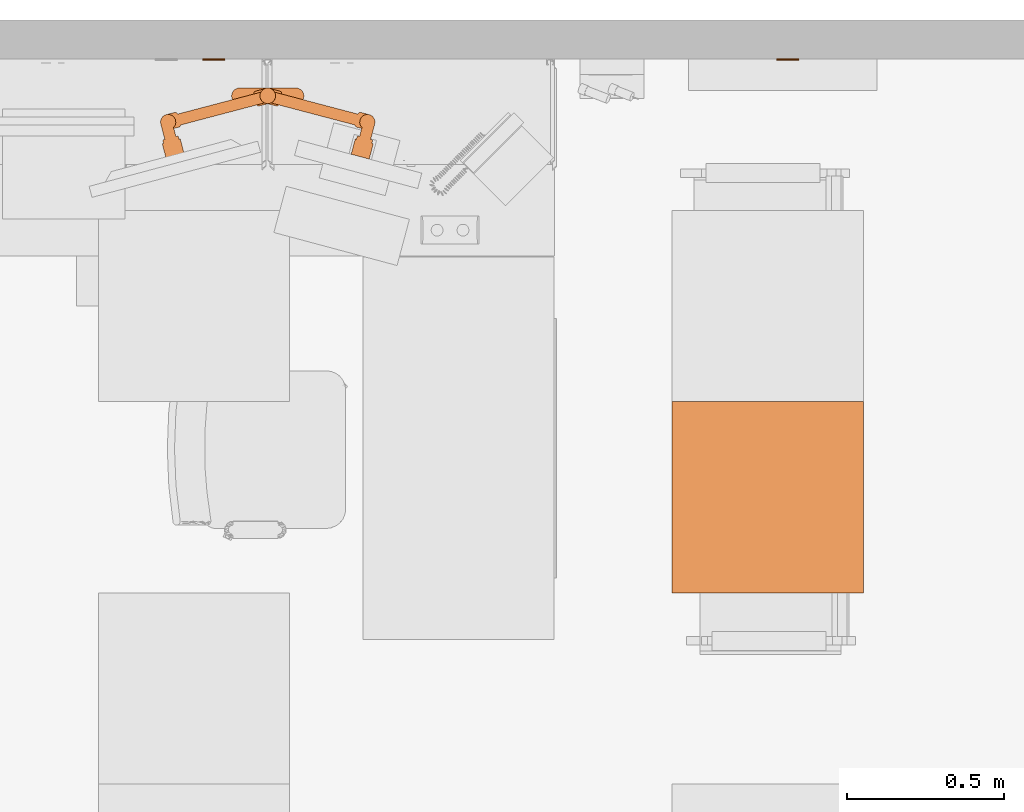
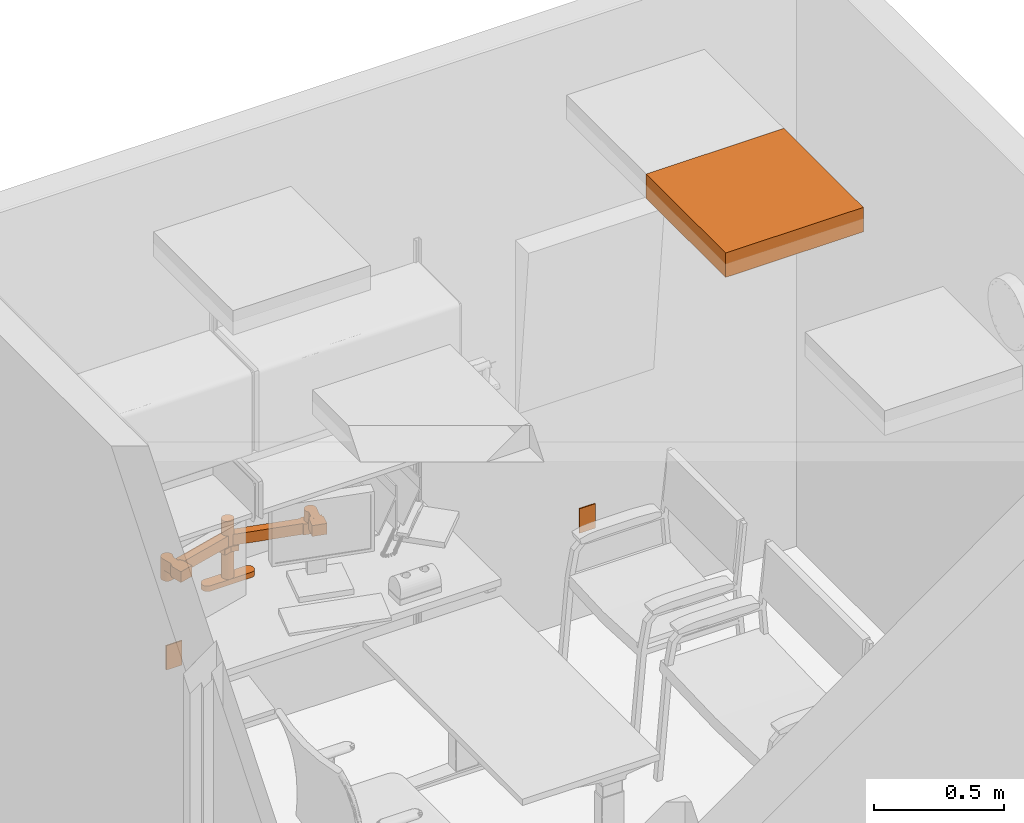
# One storey, part 6 of 9: 4 proxies.
"""IFC2X3 building model written with IfcOpenShell, lengths in feet."""

from ifc_helpers import new_model, entity, si_unit, converted_unit, derived_unit, direction, frame, frame_2d, origin, origin_2d_with_axis, place, context, subcontext, project, spatial, polyline, circle_curve, parameter, trimmed, segment, composite_curve, rectangle, circle, outline, extrude, source, transform, mapped, type_object, type_shapes, element, save


model = new_model("IFC2X3")

# Units and contexts
model_context = context("Model", 3, precision=0.0001, world=origin(), true_north=direction((6.12303176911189e-17, 1.0)))
body_context = subcontext(model_context, "Body", "Model", "MODEL_VIEW")
ifc_project = project(units=[converted_unit("LENGTHUNIT", "FOOT", entity("IfcRatioMeasure", 0.3048), si_unit("LENGTHUNIT", "METRE"), dimensions=[1, 0, 0, 0, 0, 0, 0]), converted_unit("AREAUNIT", "SQUARE FOOT", entity("IfcRatioMeasure", 0.09290304), si_unit("AREAUNIT", "SQUARE_METRE"), dimensions=[2, 0, 0, 0, 0, 0, 0]), converted_unit("VOLUMEUNIT", "CUBIC FOOT", entity("IfcRatioMeasure", 0.028316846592), si_unit("VOLUMEUNIT", "CUBIC_METRE"), dimensions=[3, 0, 0, 0, 0, 0, 0]), converted_unit("PLANEANGLEUNIT", "DEGREE", entity("IfcRatioMeasure", 0.0174532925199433), si_unit("PLANEANGLEUNIT", "RADIAN"), dimensions=[0, 0, 0, 0, 0, 0, 0]), si_unit("MASSUNIT", "GRAM", prefix="KILO"), derived_unit("MASSDENSITYUNIT", [(si_unit("MASSUNIT", "GRAM", prefix="KILO"), 1), (si_unit("LENGTHUNIT", "METRE"), -3)]), si_unit("TIMEUNIT", "SECOND"), si_unit("FREQUENCYUNIT", "HERTZ"), si_unit("THERMODYNAMICTEMPERATUREUNIT", "DEGREE_CELSIUS"), derived_unit("THERMALTRANSMITTANCEUNIT", [(si_unit("MASSUNIT", "GRAM", prefix="KILO"), 1), (si_unit("THERMODYNAMICTEMPERATUREUNIT", "KELVIN"), -1), (si_unit("TIMEUNIT", "SECOND"), -3)]), derived_unit("VOLUMETRICFLOWRATEUNIT", [(si_unit("LENGTHUNIT", "METRE"), 3), (si_unit("TIMEUNIT", "SECOND"), -1)]), si_unit("ELECTRICCURRENTUNIT", "AMPERE"), si_unit("ELECTRICVOLTAGEUNIT", "VOLT"), si_unit("POWERUNIT", "WATT"), si_unit("FORCEUNIT", "NEWTON"), si_unit("ILLUMINANCEUNIT", "LUX"), si_unit("LUMINOUSFLUXUNIT", "LUMEN"), si_unit("LUMINOUSINTENSITYUNIT", "CANDELA"), derived_unit("USERDEFINED", [(si_unit("MASSUNIT", "GRAM", prefix="KILO"), -1), (si_unit("LENGTHUNIT", "METRE"), -2), (si_unit("TIMEUNIT", "SECOND"), 3), (si_unit("LUMINOUSFLUXUNIT", "LUMEN"), 1)]), derived_unit("LINEARVELOCITYUNIT", [(si_unit("LENGTHUNIT", "METRE"), 1), (si_unit("TIMEUNIT", "SECOND"), -1)]), si_unit("PRESSUREUNIT", "PASCAL"), derived_unit("USERDEFINED", [(si_unit("LENGTHUNIT", "METRE"), -2), (si_unit("MASSUNIT", "GRAM", prefix="KILO"), 1), (si_unit("TIMEUNIT", "SECOND"), -2)])], contexts=[model_context])

# Site, building, storey, space
site_placement = place(None, origin())
site = spatial("IfcSite", under=ifc_project, at=site_placement, Name="Default", CompositionType="ELEMENT")
building_placement = place(site_placement, origin())
building = spatial("IfcBuilding", under=site, at=building_placement, Name="AUDIOLOGY AND SPEECH PATHOLOGY (Ch. 204)", CompositionType="ELEMENT")
storey_placement = place(building_placement, frame((0.0, 0.0, 42.0)))
storey = spatial("IfcBuildingStorey", under=building, at=storey_placement, Name="AUD01 - Audiology Rehabilitation/Counseling", CompositionType="ELEMENT", Elevation=42.0)
space_placement = place(storey_placement, origin())
space = spatial("IfcSpace", under=storey, at=space_placement, Name="(AUD01)", CompositionType="ELEMENT", InteriorOrExteriorSpace="INTERNAL")

# Proxies
building_element_proxy_type_1 = type_object("IfcBuildingElementProxyType", Name="A5225 - Dual  Flat Panel Monitor ARMS", PredefinedType="NOTDEFINED")
shared_shape_1 = source(origin(), body_context, "Body", "SweptSolid", [
    extrude(outline(composite_curve([segment(trimmed(circle_curve(frame_2d((-0.790855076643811, -0.00490841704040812), x_axis=(0.254554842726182, -0.967058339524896)), 0.0820209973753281), [parameter(25.1937534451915)], [parameter(117.785704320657)], True, "PARAMETER"), False, "CONTINUOUS"), segment(polyline([(-0.738197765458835, -0.0677944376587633), (0.171197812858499, -0.0677944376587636)]), True, "CONTINUOUS"), segment(trimmed(circle_curve(frame_2d((0.188411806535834, -0.0675795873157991), x_axis=(0.254554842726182, -0.967058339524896)), 0.0172153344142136), [parameter(255.967870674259)], [parameter(345.252790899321)], True, "PARAMETER"), True, "CONTINUOUS"), segment(polyline([(0.188411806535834, -0.0847949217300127), (0.288518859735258, -0.0847949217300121)]), True, "CONTINUOUS"), segment(trimmed(circle_curve(frame_2d((0.286061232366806, -0.0049273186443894), x_axis=(0.254554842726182, -0.967058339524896)), 0.0799054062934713), [parameter(347.01529850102)], [parameter(165.252790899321)], True, "PARAMETER"), True, "CONTINUOUS"), segment(polyline([(0.286061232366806, 0.0749780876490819), (0.192029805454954, 0.0749780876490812)]), True, "CONTINUOUS"), segment(trimmed(circle_curve(frame_2d((0.192029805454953, 0.0541447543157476), x_axis=(0.254554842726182, -0.967058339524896)), 0.0208333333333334), [parameter(165.252790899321)], [parameter(255.252790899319)], True, "PARAMETER"), True, "CONTINUOUS"), segment(polyline([(0.17119647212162, 0.0541447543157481), (0.17119647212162, 0.0505388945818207)]), True, "CONTINUOUS"), segment(polyline([(0.17119647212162, 0.0505388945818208), (-0.730414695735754, 0.0505388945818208)]), True, "CONTINUOUS")], self_intersect=False)), frame((-0.766443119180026, 0.426874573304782, 0.588770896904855), z_axis=(0.0, 0.0, -1.0), x_axis=(-0.967058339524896, -0.25455484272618, 0.0)), (0.0, 0.0, -1.0), 0.166666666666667),
    extrude(outline(composite_curve([segment(trimmed(circle_curve(frame_2d((-0.0257333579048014, -0.00677368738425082), x_axis=(1.0, 0.0)), 0.0799054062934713), [parameter(194.747209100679)], [parameter(12.9847014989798)], True, "PARAMETER"), True, "CONTINUOUS"), segment(polyline([(0.0521288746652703, 0.0111803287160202), (0.0508776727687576, 0.015933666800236)]), True, "CONTINUOUS"), segment(trimmed(circle_curve(frame_2d((-0.0257333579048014, -0.00677368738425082), x_axis=(1.0, 0.0)), 0.0799054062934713), [parameter(16.5097167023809)], [parameter(194.747209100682)], True, "PARAMETER"), True, "CONTINUOUS")], self_intersect=False)), frame((-1.03505305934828, 0.323557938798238, 0.755437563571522), z_axis=(0.0, 0.0, 1.0), x_axis=(0.0, -1.0, 0.0)), (0.0, 0.0, 1.0), 0.166666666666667),
    extrude(outline(composite_curve([segment(trimmed(circle_curve(frame_2d((0.0724992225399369, 0.012189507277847), x_axis=(1.0, 0.0)), 0.059894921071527), [parameter(284.74720910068)], [parameter(104.747026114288)], True, "PARAMETER"), True, "CONTINUOUS"), segment(polyline([(0.0572528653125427, 0.0701114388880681), (-0.0376511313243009, 0.0451305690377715)]), True, "CONTINUOUS"), segment(trimmed(circle_curve(frame_2d((-0.0944490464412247, -0.0110732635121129), x_axis=(1.0, 0.0)), 0.0799054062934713), [parameter(16.5097167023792)], [parameter(44.6987824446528)], True, "PARAMETER"), False, "CONTINUOUS"), segment(polyline([(-0.0178380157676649, 0.0116340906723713), (-0.0165868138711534, 0.00688075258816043)]), True, "CONTINUOUS"), segment(trimmed(circle_curve(frame_2d((-0.0944490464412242, -0.0110732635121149), x_axis=(1.0, 0.0)), 0.0799054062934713), [parameter(285.628462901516)], [parameter(12.984701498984)], True, "PARAMETER"), False, "CONTINUOUS"), segment(polyline([(-0.0729226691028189, -0.0880244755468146), (0.087745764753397, -0.045732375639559)]), True, "CONTINUOUS")], self_intersect=False)), frame((-1.03075348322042, 0.254842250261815, 0.755437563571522), z_axis=(0.0, 0.0, 1.0), x_axis=(0.0, -1.0, 0.0)), (0.0, 0.0, 1.0), 0.166666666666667),
    extrude(outline(composite_curve([segment(polyline([(0.0602572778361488, -0.0554648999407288), (0.0827848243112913, -0.0554648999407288)]), True, "CONTINUOUS"), segment(polyline([(0.0827848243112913, -0.0554648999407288), (0.0827848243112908, -0.0179714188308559)]), True, "CONTINUOUS"), segment(polyline([(0.0827848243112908, -0.0179714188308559), (0.0978778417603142, -0.0179714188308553)]), True, "CONTINUOUS"), segment(polyline([(0.0978778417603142, -0.0179714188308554), (0.0978778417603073, 0.147303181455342)]), True, "CONTINUOUS"), segment(polyline([(0.0978778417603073, 0.147303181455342), (-0.0971477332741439, 0.146442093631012)]), True, "CONTINUOUS"), segment(polyline([(-0.0971477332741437, 0.146442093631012), (-0.0971477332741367, -0.0179714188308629)]), True, "CONTINUOUS"), segment(polyline([(-0.0971477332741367, -0.0179714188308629), (-0.0838818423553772, -0.0179714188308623)]), True, "CONTINUOUS"), segment(polyline([(-0.0838818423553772, -0.0179714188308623), (-0.0838818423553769, -0.0554648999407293)]), True, "CONTINUOUS"), segment(polyline([(-0.0838818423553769, -0.0554648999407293), (-0.0595234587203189, -0.0554648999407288)]), True, "CONTINUOUS"), segment(trimmed(circle_curve(frame_2d((0.000366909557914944, -0.0547264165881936), x_axis=(0.2545517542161, 0.967059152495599)), 0.059894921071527), [parameter(284.040571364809)], [parameter(105.453480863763)], True, "PARAMETER"), False, "CONTINUOUS")], self_intersect=False)), frame((-1.00427844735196, 0.129512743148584, 0.755437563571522), z_axis=(0.0, 0.0, 1.0), x_axis=(-0.9670591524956, -0.254551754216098, 0.0)), (0.0, 0.0, 1.0), 0.166666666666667),
    extrude(outline(composite_curve([segment(polyline([(-0.0382992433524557, -0.0723910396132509), (-0.0325648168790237, -0.0941765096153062)]), True, "CONTINUOUS"), segment(polyline([(-0.0325648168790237, -0.0941765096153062), (0.00369359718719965, -0.0846324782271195)]), True, "CONTINUOUS"), segment(polyline([(0.00369359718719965, -0.0846324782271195), (0.0075355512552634, -0.0992283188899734)]), True, "CONTINUOUS"), segment(polyline([(0.0075355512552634, -0.0992283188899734), (0.16736586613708, -0.0571573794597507)]), True, "CONTINUOUS"), segment(polyline([(0.16736586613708, -0.0571573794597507), (0.116889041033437, 0.131224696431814)]), True, "CONTINUOUS"), segment(polyline([(0.116889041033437, 0.131224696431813), (-0.0421085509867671, 0.0893729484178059)]), True, "CONTINUOUS"), segment(polyline([(-0.0421085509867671, 0.0893729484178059), (-0.0387316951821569, 0.0765440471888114)]), True, "CONTINUOUS"), segment(polyline([(-0.0387316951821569, 0.0765440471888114), (-0.0749901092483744, 0.0670000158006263)]), True, "CONTINUOUS"), segment(polyline([(-0.0749901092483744, 0.0670000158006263), (-0.0687896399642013, 0.0434440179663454)]), True, "CONTINUOUS"), segment(trimmed(circle_curve(frame_2d((-0.0528302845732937, -0.0142855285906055), x_axis=(1.0, 0.0)), 0.059894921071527), [parameter(284.040571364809)], [parameter(105.453480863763)], True, "PARAMETER"), False, "CONTINUOUS")], self_intersect=False)), frame((1.0034971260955, 0.129512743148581, 0.755437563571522), z_axis=(0.0, 0.0, -1.0), x_axis=(0.0, -1.0, 0.0)), (0.0, 0.0, -1.0), 0.166666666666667),
    extrude(outline(composite_curve([segment(polyline([(-0.0732138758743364, -0.0665619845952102), (0.0929275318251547, -0.0665619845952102)]), True, "CONTINUOUS"), segment(trimmed(circle_curve(frame_2d((0.0941564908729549, 0.0133339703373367), x_axis=(-0.967058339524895, -0.254554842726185)), 0.0799054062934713), [parameter(347.015298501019)], [parameter(74.3715370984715)], True, "PARAMETER"), False, "CONTINUOUS"), segment(polyline([(0.0142888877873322, 0.0108763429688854), (0.0142888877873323, 0.0157915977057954)]), True, "CONTINUOUS"), segment(trimmed(circle_curve(frame_2d((0.0941564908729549, 0.013333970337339), x_axis=(-0.967058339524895, -0.254554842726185)), 0.0799054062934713), [parameter(315.301217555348)], [parameter(343.490283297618)], True, "PARAMETER"), False, "CONTINUOUS"), segment(polyline([(0.0249226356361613, 0.0532281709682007), (-0.0732140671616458, 0.0532278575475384)]), True, "CONTINUOUS"), segment(trimmed(circle_curve(frame_2d((-0.0732138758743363, -0.00666706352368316), x_axis=(-0.967058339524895, -0.254554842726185)), 0.059894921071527), [parameter(255.252973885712)], [parameter(75.2527908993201)], True, "PARAMETER"), True, "CONTINUOUS")], self_intersect=False)), frame((1.02997216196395, 0.254842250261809, 0.755437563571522), z_axis=(0.0, 0.0, 1.0), x_axis=(0.254554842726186, 0.967058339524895, 0.0)), (0.0, 0.0, 1.0), 0.166666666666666),
    extrude(outline(composite_curve([segment(trimmed(circle_curve(frame_2d((-0.0257333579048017, 0.00677368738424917), x_axis=(1.0, 0.0)), 0.0799054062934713), [parameter(165.252790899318)], [parameter(343.490283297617)], True, "PARAMETER"), True, "CONTINUOUS"), segment(polyline([(0.0508776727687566, -0.01593366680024), (0.0521288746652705, -0.0111803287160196)]), True, "CONTINUOUS"), segment(trimmed(circle_curve(frame_2d((-0.0257333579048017, 0.00677368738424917), x_axis=(1.0, 0.0)), 0.0799054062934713), [parameter(347.015298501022)], [parameter(165.25279089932)], True, "PARAMETER"), True, "CONTINUOUS")], self_intersect=False)), frame((1.03427173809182, 0.323557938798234, 0.755437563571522), z_axis=(0.0, 0.0, 1.0), x_axis=(0.0, -1.0, 0.0)), (0.0, 0.0, 1.0), 0.166666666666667),
    extrude(circle(Radius=0.0820209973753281, at=frame_2d((-2.3534863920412e-31, 1.32489505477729e-16), x_axis=(1.0, 0.0))), frame((-0.000390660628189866, 0.624030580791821, 0.588770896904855), z_axis=(0.0, 0.0, 1.0), x_axis=(0.0, -1.0, 0.0)), (0.0, 0.0, 1.0), 0.385601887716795),
    extrude(outline(composite_curve([segment(polyline([(-0.234804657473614, 0.693488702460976), (-0.00529516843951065, -0.178421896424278)]), True, "CONTINUOUS"), segment(polyline([(-0.00529516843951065, -0.178421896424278), (-0.00878224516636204, -0.179339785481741)]), True, "CONTINUOUS"), segment(trimmed(circle_curve(frame_2d((-0.00347901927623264, -0.199486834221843), x_axis=(1.0, 0.0)), 0.0208333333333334), [parameter(104.747209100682)], [parameter(194.747209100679)], True, "PARAMETER"), True, "CONTINUOUS"), segment(polyline([(-0.0236260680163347, -0.204790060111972), (0.000310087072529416, -0.295723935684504)]), True, "CONTINUOUS"), segment(trimmed(circle_curve(frame_2d((0.0775832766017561, -0.275383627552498), x_axis=(1.0, 0.0)), 0.0799054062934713), [parameter(194.747209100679)], [parameter(12.9847014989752)], True, "PARAMETER"), True, "CONTINUOUS"), segment(polyline([(0.155445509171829, -0.257429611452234), (0.129962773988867, -0.160620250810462)]), True, "CONTINUOUS"), segment(trimmed(circle_curve(frame_2d((0.113314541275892, -0.16500249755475), x_axis=(1.0, 0.0)), 0.0172153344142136), [parameter(14.7472091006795)], [parameter(104.032129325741)], True, "PARAMETER"), True, "CONTINUOUS"), segment(polyline([(0.109140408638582, -0.148300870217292), (-0.122350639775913, 0.731137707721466)]), True, "CONTINUOUS"), segment(trimmed(circle_curve(frame_2d((-0.196569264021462, 0.76605245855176), x_axis=(1.0, 0.0)), 0.0820209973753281), [parameter(242.214295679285)], [parameter(334.806246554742)], True, "PARAMETER"), False, "CONTINUOUS")], self_intersect=False)), frame((0.765661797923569, 0.426874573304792, 0.588770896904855), z_axis=(0.0, 0.0, -1.0), x_axis=(0.0, -1.0, 0.0)), (0.0, 0.0, -1.0), 0.166666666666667),
    extrude(outline(composite_curve([segment(polyline([(-0.0275603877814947, -0.104702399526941), (0.104720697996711, -0.104702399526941)]), True, "CONTINUOUS"), segment(trimmed(circle_curve(frame_2d((0.104720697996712, -0.0838690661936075), x_axis=(0.254554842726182, 0.967058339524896)), 0.0208333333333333), [parameter(194.747209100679)], [parameter(284.74720910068)], True, "PARAMETER"), True, "CONTINUOUS"), segment(polyline([(0.125554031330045, -0.0838690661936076), (0.125554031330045, 0.0378552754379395)]), True, "CONTINUOUS"), segment(trimmed(circle_curve(frame_2d((0.108338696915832, 0.0378552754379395), x_axis=(0.254554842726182, 0.967058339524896)), 0.0172153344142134), [parameter(284.747209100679)], [parameter(14.7472091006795)], True, "PARAMETER"), True, "CONTINUOUS"), segment(polyline([(0.108338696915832, 0.0550706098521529), (0.0144960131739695, 0.055070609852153)]), True, "CONTINUOUS"), segment(polyline([(0.0144960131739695, 0.055070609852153), (-0.0671850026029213, 0.101273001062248)]), True, "CONTINUOUS"), segment(trimmed(circle_curve(frame_2d((-0.0756607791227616, 0.0862887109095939), x_axis=(0.254554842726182, 0.967058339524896)), 0.0172153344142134), [parameter(345.25279089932)], [parameter(75.2527908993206)], True, "PARAMETER"), True, "CONTINUOUS"), segment(polyline([(-0.0906450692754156, 0.0947644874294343), (-0.150574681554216, -0.0111848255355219)]), True, "CONTINUOUS"), segment(trimmed(circle_curve(frame_2d((-0.132441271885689, -0.0214418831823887), x_axis=(0.254554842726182, 0.967058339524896)), 0.0208333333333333), [parameter(75.2527908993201)], [parameter(165.25279089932)], True, "PARAMETER"), True, "CONTINUOUS"), segment(polyline([(-0.142698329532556, -0.0395752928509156), (-0.0275603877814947, -0.104702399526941)]), True, "CONTINUOUS")], self_intersect=False)), frame((-0.000390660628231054, 0.597782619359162, 0.505437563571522), z_axis=(0.0, 0.0, 1.0), x_axis=(-0.967058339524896, -0.254554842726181, 0.0)), (0.0, 0.0, 1.0), 0.083333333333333),
    extrude(circle(Radius=0.0820209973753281, at=frame_2d((-2.3534863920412e-31, 1.32489505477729e-16), x_axis=(1.0, 0.0))), frame((-0.000390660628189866, 0.623443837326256, 0.0887708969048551), z_axis=(0.0, 0.0, 1.0), x_axis=(0.0, -1.0, 0.0)), (0.0, 0.0, 1.0), 0.416666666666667),
    extrude(outline(composite_curve([segment(trimmed(circle_curve(frame_2d((0.0, -0.295275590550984), x_axis=(1.0, 0.0)), 0.0820209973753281), [parameter(180.0)], [parameter(360.0)], True, "PARAMETER"), True, "CONTINUOUS"), segment(polyline([(0.0820209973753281, -0.295275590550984), (0.0820209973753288, 0.295275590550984)]), True, "CONTINUOUS"), segment(trimmed(circle_curve(frame_2d((0.0, 0.295275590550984), x_axis=(1.0, 0.0)), 0.0820209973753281), [parameter(0.0)], [parameter(180.0)], True, "PARAMETER"), True, "CONTINUOUS"), segment(polyline([(-0.0820209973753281, 0.295275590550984), (-0.0820209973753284, -0.295275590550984)]), True, "CONTINUOUS")], self_intersect=False)), frame((-0.000390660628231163, 0.623443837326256, 0.00543756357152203), z_axis=(0.0, 0.0, 1.0), x_axis=(0.0, -1.0, 0.0)), (0.0, 0.0, 1.0), 0.083333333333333),
])
type_shapes(building_element_proxy_type_1, [shared_shape_1])
proxy_1_placement = place(space_placement, frame((3.19844620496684, 10.7501404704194, 2.66122910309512)))
element("IfcBuildingElementProxy", 1, at=proxy_1_placement, inside=space, type_object=building_element_proxy_type_1, Name="A5225 - Bracket, Dual Computer Monitor, Desk-Mounted:A5225 - Dual  Flat Panel Monitor ARMS", ObjectType="A5225 - Dual  Flat Panel Monitor ARMS", context=body_context, shape_type="MappedRepresentation", body=[
    mapped(shared_shape_1, transform((0.0, 0.0, 0.0), scale=1.0)),
])
building_element_proxy_type_2 = type_object("IfcBuildingElementProxyType", Name="24\" x 24\"", PredefinedType="NOTDEFINED")
shared_shape_2 = source(origin(), body_context, "Body", "SweptSolid", [
    extrude(rectangle(XDim=2.00000000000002, YDim=2.00000000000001, at=origin_2d_with_axis()), frame((0.0, 0.0, 8.0), z_axis=(0.0, 0.0, 1.0), x_axis=(0.0, 1.0, 0.0)), (0.0, 0.0, 1.0), 0.375),
])
type_shapes(building_element_proxy_type_2, [shared_shape_2])
proxy_2_placement = place(space_placement, frame((8.42708333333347, 7.1770833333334, 1.0)))
element("IfcBuildingElementProxy", 2, at=proxy_2_placement, inside=space, type_object=building_element_proxy_type_2, Name="Supply Diffuser:24\" x 24\"", ObjectType="24\" x 24\"", context=body_context, shape_type="MappedRepresentation", body=[
    mapped(shared_shape_2, transform((0.0, 0.0, 0.0), scale=1.0)),
])
building_element_proxy_type_3 = type_object("IfcBuildingElementProxyType", Name="Duplex", PredefinedType="NOTDEFINED")
shared_shape_3 = source(origin(), body_context, "Body", "SweptSolid", [
    extrude(rectangle(XDim=0.0156249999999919, YDim=0.229166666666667, at=origin_2d_with_axis()), frame((0.0, 0.210937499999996, 0.0), z_axis=(0.0, 0.0, 1.0), x_axis=(0.0, 1.0, 0.0)), (0.0, 0.0, 1.0), 0.37500000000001),
])
type_shapes(building_element_proxy_type_3, [shared_shape_3])
for number, where, z_axis, x_axis, name in (
    (3, (2.63541666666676, 11.9635416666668, 1.3125), (0.0, 0.0, 1.0), (-1.0, 0.0, 0.0), "Outlet, Duplex, Wall:Duplex"),
    (4, (8.63541666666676, 11.9635416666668, 1.3125), (0.0, 0.0, 1.0), (-1.0, 0.0, 0.0), "Outlet, Duplex, Wall:Duplex"),
):
    element("IfcBuildingElementProxy", number, at=place(space_placement, frame(where, z_axis=z_axis, x_axis=x_axis)), inside=space, type_object=building_element_proxy_type_3, Name=name, ObjectType="Duplex", context=body_context, shape_type="MappedRepresentation", body=[
        mapped(shared_shape_3, transform((0.0, 0.0, 0.0), scale=1.0)),
    ])

save(model, "model.ifc")
